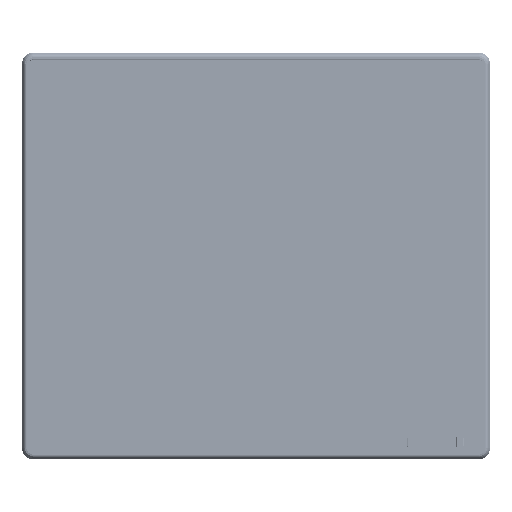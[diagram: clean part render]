
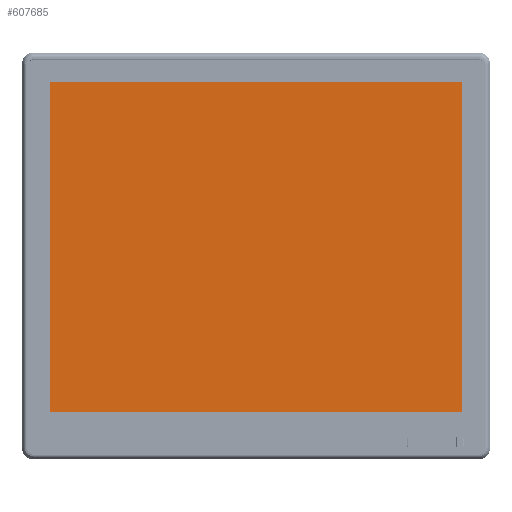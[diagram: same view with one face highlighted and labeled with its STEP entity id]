
A CAD part, top view. The second image highlights one B-rep face of the part: STEP entity #607685.
In plain terms, the highlighted planar face has unit normal (0, 0, 1).
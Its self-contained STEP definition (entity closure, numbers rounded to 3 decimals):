
#2583 = VERTEX_POINT ( 'NONE', #358358 ) ;
#23493 = CARTESIAN_POINT ( 'NONE',  ( 154.085, -273.128, 417.585 ) ) ;
#36861 = CARTESIAN_POINT ( 'NONE',  ( 154.085, 31.952, 417.585 ) ) ;
#53121 = ORIENTED_EDGE ( 'NONE', *, *, #80909, .F. ) ;
#59006 = DIRECTION ( 'NONE',  ( 0., -1., 0. ) ) ;
#65594 = DIRECTION ( 'NONE',  ( 0., 0., 1. ) ) ;
#68566 = EDGE_CURVE ( 'NONE', #507763, #396927, #215040, .T. ) ;
#80909 = EDGE_CURVE ( 'NONE', #2583, #482456, #603476, .T. ) ;
#88086 = DIRECTION ( 'NONE',  ( -1., 0., 0. ) ) ;
#90196 = EDGE_CURVE ( 'NONE', #387739, #507763, #185387, .T. ) ;
#159286 = EDGE_LOOP ( 'NONE', ( #53121, #164746 ) ) ;
#160283 = LINE ( 'NONE', #275969, #279184 ) ;
#164746 = ORIENTED_EDGE ( 'NONE', *, *, #583629, .F. ) ;
#174019 = DIRECTION ( 'NONE',  ( 0., 1., 0. ) ) ;
#176421 = CARTESIAN_POINT ( 'NONE',  ( -35.915, -120.588, 417.585 ) ) ;
#178620 = FACE_BOUND ( 'NONE', #159286, .T. ) ;
#185387 = LINE ( 'NONE', #464115, #304192 ) ;
#201889 = VERTEX_POINT ( 'NONE', #36861 ) ;
#205578 = DIRECTION ( 'NONE',  ( 0., 0., 1. ) ) ;
#215040 = LINE ( 'NONE', #394047, #484497 ) ;
#218804 = CIRCLE ( 'NONE', #596861, 0.5 ) ;
#227433 = DIRECTION ( 'NONE',  ( 0., -1., 0. ) ) ;
#247729 = DIRECTION ( 'NONE',  ( 1., 0., 0. ) ) ;
#264838 = PLANE ( 'NONE',  #274080 ) ;
#274080 = AXIS2_PLACEMENT_3D ( 'NONE', #368816, #65594, #419864 ) ;
#275969 = CARTESIAN_POINT ( 'NONE',  ( 154.085, 31.952, 417.585 ) ) ;
#279184 = VECTOR ( 'NONE', #174019, 1000. ) ;
#289488 = CARTESIAN_POINT ( 'NONE',  ( -225.915, 31.952, 417.585 ) ) ;
#303173 = AXIS2_PLACEMENT_3D ( 'NONE', #509032, #205578, #559889 ) ;
#304192 = VECTOR ( 'NONE', #59006, 1000. ) ;
#312456 = CARTESIAN_POINT ( 'NONE',  ( -225.915, 31.952, 417.585 ) ) ;
#319320 = EDGE_CURVE ( 'NONE', #396927, #201889, #160283, .T. ) ;
#324429 = EDGE_LOOP ( 'NONE', ( #489965, #576716, #406269, #395784 ) ) ;
#358358 = CARTESIAN_POINT ( 'NONE',  ( -35.915, -120.088, 417.585 ) ) ;
#368816 = CARTESIAN_POINT ( 'NONE',  ( -225.915, -273.128, 417.585 ) ) ;
#387739 = VERTEX_POINT ( 'NONE', #312456 ) ;
#394047 = CARTESIAN_POINT ( 'NONE',  ( -225.915, -273.128, 417.585 ) ) ;
#395784 = ORIENTED_EDGE ( 'NONE', *, *, #497989, .T. ) ;
#396927 = VERTEX_POINT ( 'NONE', #23493 ) ;
#406269 = ORIENTED_EDGE ( 'NONE', *, *, #319320, .T. ) ;
#419864 = DIRECTION ( 'NONE',  ( 1., 0., 0. ) ) ;
#432385 = FACE_OUTER_BOUND ( 'NONE', #324429, .T. ) ;
#438109 = LINE ( 'NONE', #289488, #556775 ) ;
#464115 = CARTESIAN_POINT ( 'NONE',  ( -225.915, 31.952, 417.585 ) ) ;
#482456 = VERTEX_POINT ( 'NONE', #579771 ) ;
#484497 = VECTOR ( 'NONE', #247729, 1000. ) ;
#489965 = ORIENTED_EDGE ( 'NONE', *, *, #90196, .T. ) ;
#497989 = EDGE_CURVE ( 'NONE', #201889, #387739, #438109, .T. ) ;
#507763 = VERTEX_POINT ( 'NONE', #601720 ) ;
#509032 = CARTESIAN_POINT ( 'NONE',  ( -35.915, -120.588, 417.585 ) ) ;
#530895 = DIRECTION ( 'NONE',  ( 0., 0., 1. ) ) ;
#556775 = VECTOR ( 'NONE', #88086, 1000. ) ;
#559889 = DIRECTION ( 'NONE',  ( 0., -1., 0. ) ) ;
#576716 = ORIENTED_EDGE ( 'NONE', *, *, #68566, .T. ) ;
#579771 = CARTESIAN_POINT ( 'NONE',  ( -35.915, -121.088, 417.585 ) ) ;
#583629 = EDGE_CURVE ( 'NONE', #482456, #2583, #218804, .T. ) ;
#596861 = AXIS2_PLACEMENT_3D ( 'NONE', #176421, #530895, #227433 ) ;
#601720 = CARTESIAN_POINT ( 'NONE',  ( -225.915, -273.128, 417.585 ) ) ;
#603476 = CIRCLE ( 'NONE', #303173, 0.5 ) ;
#607685 = ADVANCED_FACE ( 'NONE', ( #432385, #178620 ), #264838, .T. ) ;
